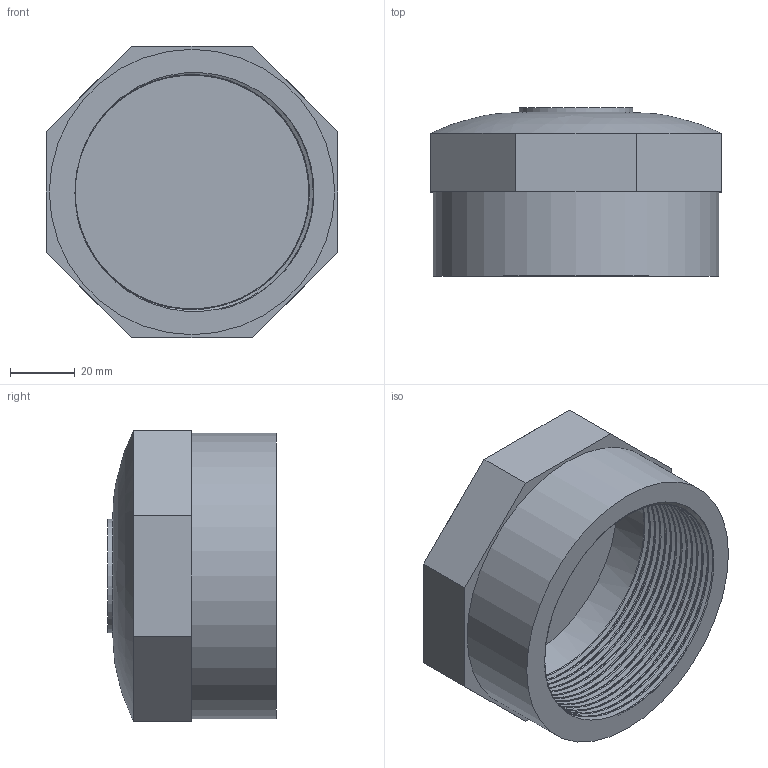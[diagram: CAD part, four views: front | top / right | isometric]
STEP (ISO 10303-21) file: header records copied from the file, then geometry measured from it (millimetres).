
FILE_DESCRIPTION(/* description */ ('PVC calotta filettata BSP'),/* implementation_level */ '2;1');
FILE_NAME(/* name */ 'C:\Users\POLYPIPE\Desktop\DATASET INVENTOR\LIBRERIA EFFAST\RACCORDI 3DxWEB\RER\3D_RERCAE\3D_RERCAE075H.stp',/* time_stamp */ '2018-01-19T15:57:51+01:00',/* author */ ('POLYPIPE'),/* organization */ ('Polypipe Italia s.r.l.'),/* preprocessor_version */ 'ST-DEVELOPER v16.1',/* originating_system */ 'Autodesk Inventor 2016',/* authorisation */ '');
FILE_SCHEMA (('CONFIG_CONTROL_DESIGN'));
Length unit declared in the file: millimetre
Products named in the file (1): 3D_RERCAE
Bounding box: 90 x 52 x 90 mm (x, y, z)
Volume: 134768.9 mm3; surface area: 40441.6 mm2
Topology: 1 solids, 1 shells, 30 faces, 68 edges, 42 vertices
Faces by surface type: plane 21, bspline 6, cylinder 3
Full cylindrical faces by diameter (mm): 35 x1, 72.226 x1, 88 x1
Entity records: 5604 total; most frequent: CARTESIAN_POINT 4955, ORIENTED_EDGE 128, DIRECTION 119, EDGE_CURVE 64, AXIS2_PLACEMENT_3D 42, VERTEX_POINT 41, LINE 35, VECTOR 35
